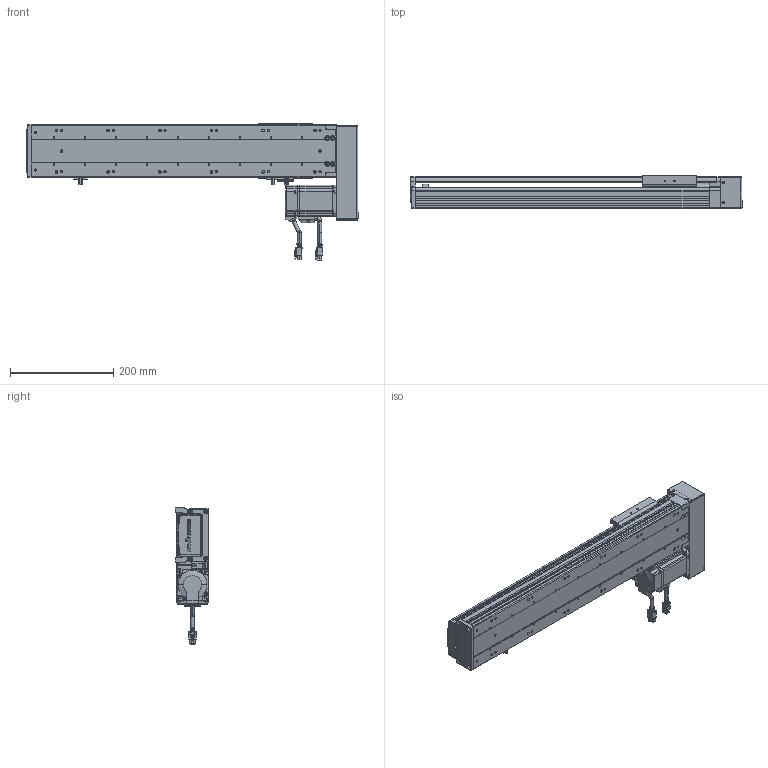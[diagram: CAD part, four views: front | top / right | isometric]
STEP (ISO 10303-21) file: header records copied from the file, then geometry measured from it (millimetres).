
FILE_DESCRIPTION (( 'STEP AP203' ), '1' );
FILE_NAME ('RY100S-L1620-300-RK(15双轨).SLDASM_400.step', '2021-02-20T08:47:55', ( '盈信电脑' ), ( '东莞市道滘镇水果街19号' ), 'SwSTEP 2.0', 'SolidWorks 2012', '' );
FILE_SCHEMA (( 'CONFIG_CONTROL_DESIGN' ));
Length unit declared in the file: millimetre
Products named in the file (25): RY80肮祭湍芢雄輸; RY100S左右折电机罩（15双轨）; RY80肮祭湍覃踡啣; RY100俋离覜茼え; RY100綴裔啣; RY100S转折电机端支撑座(15双轨); 滅袉蝶18-24; 覜茼ん672; 滅袉蝶18-10; RY100S-300-LK转折型材上盖(15双轨)_400; RY100S-350-LK型材底座(低组15双轨)_400; RY100S转折电机安装板（15双轨）; 3M30喘15遵; RY100S-L1620-300-RK(15邧寢).SLDASM_400; 蚾饜极1^RY100S-L1620-300-RK(15邧寢); RY100S铝滑块（15双轨单滑块）底组装导轨; 6; 侂狟200W萇儂; 7; 3; 4; 5; 2; 1; 肮祭湍3M遵15笚酗282
Assembly tree (27 placements, depth 4):
  RY100S-L1620-300-RK(15邧寢).SLDASM_400
    RY100S-350-LK型材底座(低组15双轨)_400
    RY100S-300-LK转折型材上盖(15双轨)_400
    覜茼ん672  x3
    滅袉蝶18-10
    RY100俋离覜茼え
    RY100S转折电机端支撑座(15双轨)
    滅袉蝶18-24
    RY100綴裔啣
    蚾饜极1^RY100S-L1620-300-RK(15邧寢)
      RY80肮祭湍覃踡啣
      RY80肮祭湍芢雄輸  x2
      RY100S左右折电机罩（15双轨）
      RY100S转折电机安装板（15双轨）
      肮祭湍3M遵15笚酗282
      侂狟200W萇儂
        1
        2
        3
        4
        5
        6
        7
      3M30喘15遵
    RY100S铝滑块（15双轨单滑块）底组装导轨
Bounding box: 642.5 x 65 x 263.3 mm (x, y, z)
Volume: 1759990.7 mm3; surface area: 669318.4 mm2
Topology: 25 solids, 25 shells, 3186 faces, 8565 edges, 5518 vertices
Faces by surface type: plane 1692, cylinder 1211, cone 169, bspline 114
Entity records: 103341 total; most frequent: CARTESIAN_POINT 25654, ORIENTED_EDGE 15834, DIRECTION 15362, EDGE_CURVE 7917, AXIS2_PLACEMENT_3D 5227, VERTEX_POINT 5154, LINE 4908, VECTOR 4908
